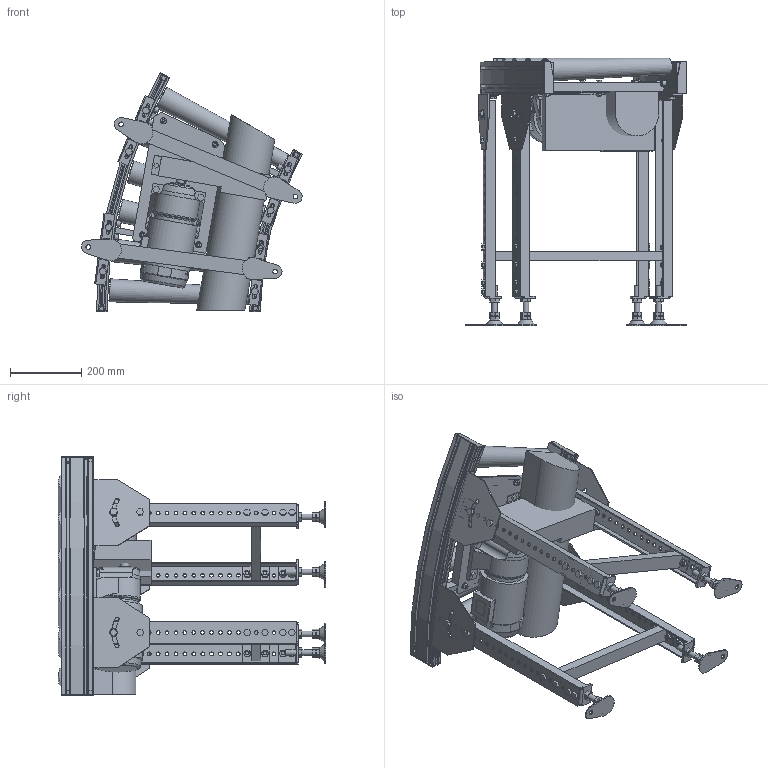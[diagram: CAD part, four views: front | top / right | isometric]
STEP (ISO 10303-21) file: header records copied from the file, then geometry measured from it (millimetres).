
FILE_DESCRIPTION( (''), '2;1');
FILE_NAME ('WEB-MCD1-50-400-100-30°-C9.stp','2026-06-19T10:53:38',(''),(''),'spGate 21.9.5 (****-****-****-****)','','');
FILE_SCHEMA (('AUTOMOTIVE_DESIGN'));
Length unit declared in the file: millimetre
Products named in the file (28): WEB-MCD1-50-400-100-30_-C9; TEMP_X_T-prt0; TEMP_X_T-prt1; TEMP_X_T-prt2; TEMP_X_T-prt3; TEMP_X_T-prt4; TEMP_X_T-prt5; TEMP_X_T-prt6; TEMP_X_T-prt7; TEMP_X_T-prt8; TEMP_X_T-prt9; TEMP_X_T-prt10; TEMP_X_T-prt11; TEMP_X_T-prt12; TEMP_X_T-prt13; TEMP_X_T-prt14; TEMP_X_T-prt15; TEMP_X_T-prt16; TEMP_X_T-prt17; TEMP_X_T-prt18; TEMP_X_T-prt19; TEMP_X_T-prt20; TEMP_X_T-prt21; TEMP_X_T-prt22; TEMP_X_T-prt23; TEMP_X_T-prt24; TEMP_X_T-prt25; TEMP_X_T-prt26
Assembly tree (27 placements, depth 2):
  WEB-MCD1-50-400-100-30_-C9
    TEMP_X_T-prt0
    TEMP_X_T-prt1
    TEMP_X_T-prt2
    TEMP_X_T-prt3
    TEMP_X_T-prt4
    TEMP_X_T-prt5
    TEMP_X_T-prt6
    TEMP_X_T-prt7
    TEMP_X_T-prt8
    TEMP_X_T-prt9
    TEMP_X_T-prt10
    TEMP_X_T-prt11
    TEMP_X_T-prt12
    TEMP_X_T-prt13
    TEMP_X_T-prt14
    TEMP_X_T-prt15
    TEMP_X_T-prt16
    TEMP_X_T-prt17
    TEMP_X_T-prt18
    TEMP_X_T-prt19
    TEMP_X_T-prt20
    TEMP_X_T-prt21
    TEMP_X_T-prt22
    TEMP_X_T-prt23
    TEMP_X_T-prt24
    TEMP_X_T-prt25
    TEMP_X_T-prt26
Bounding box: 619.87 x 750 x 670.6 mm (x, y, z)
Volume: 27256660 mm3; surface area: 2826574.3 mm2
Topology: 27 solids, 52 shells, 2199 faces, 5437 edges, 3550 vertices
Faces by surface type: plane 1780, cylinder 390, bspline 29
Full cylindrical faces by diameter (mm): 6 x1, 8 x16, 10 x35, 10.2 x8, 10.5 x88, 11 x4, 12 x13, 12.2 x2, 12.5 x2, 13 x4, 15.4 x8, 16 x20, 17 x8, 18.4 x28, 18.5 x8, 21 x8, 24 x1, 28 x1, 56 x1, 113.2 x1, 125 x1, 135.411 x1
Entity records: 111518 total; most frequent: CARTESIAN_POINT 13051, DIRECTION 11136, ORIENTED_EDGE 10872, COLOUR_RGB 7662, PRESENTATION_STYLE_ASSIGNMENT 7662, STYLED_ITEM 7662, EDGE_CURVE 5436, DRAUGHTING_PRE_DEFINED_CURVE_FONT 5436
